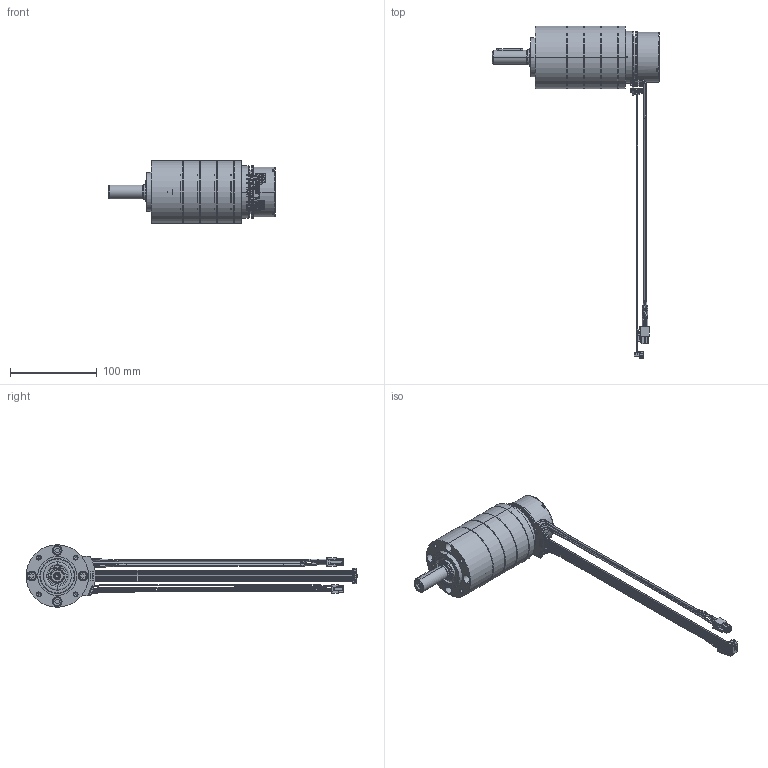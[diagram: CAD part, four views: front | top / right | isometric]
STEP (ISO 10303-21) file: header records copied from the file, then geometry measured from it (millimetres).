
FILE_DESCRIPTION (( 'STEP AP214' ), '1' );
FILE_NAME ('EC60Flat_PM72_3st.STEP', '2020-06-22T12:23:11', ( '' ), ( '' ), 'SwSTEP 2.0', 'SolidWorks 2019', '' );
FILE_SCHEMA (( 'AUTOMOTIVE_DESIGN' ));
Length unit declared in the file: millimetre
Products named in the file (4): 6873599_adapt_ec60_pm72_Part; PM72-3etages; EC60fl. 150W cable open + MILE; EC60Flat_PM72_3st
Assembly tree (3 placements, depth 2):
  EC60Flat_PM72_3st
    EC60fl. 150W cable open + MILE
    PM72-3etages
    6873599_adapt_ec60_pm72_Part
Bounding box: 192.6 x 382.24 x 72 mm (x, y, z)
Volume: 40823.4 mm3; surface area: 189576.2 mm2
Topology: 1 solids, 66 shells, 3035 faces, 8019 edges, 5181 vertices
Faces by surface type: plane 1652, cylinder 1079, torus 209, cone 95
Entity records: 131162 total; most frequent: CARTESIAN_POINT 20329, DIRECTION 16338, ORIENTED_EDGE 15950, EDGE_CURVE 8001, AXIS2_PLACEMENT_3D 5511, VECTOR 5316, LINE 5316, VERTEX_POINT 5181
